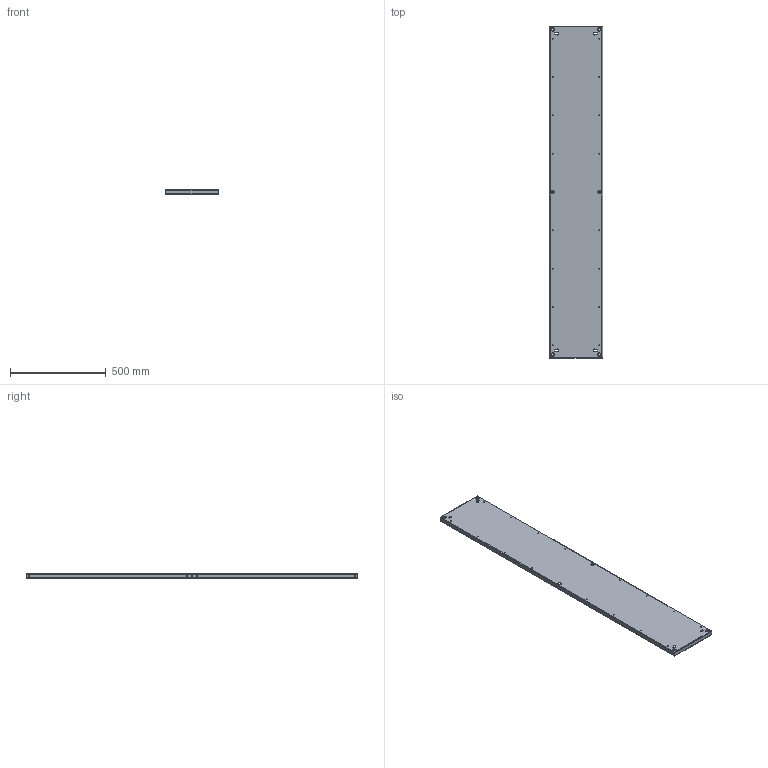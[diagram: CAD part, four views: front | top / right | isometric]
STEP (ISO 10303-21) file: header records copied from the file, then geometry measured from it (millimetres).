
FILE_DESCRIPTION(('STEP AP203'), '1');
FILE_NAME('Ïàíåëü ìîíòàæíàÿ Â1800õØ400 ìì OptiBox M 419705 ÊÝÀÇ', '', ('UNSPECIFIED'), ('UNSPECIFIED'), 'C3D Converter', 'C3D Toolkit', '');
FILE_SCHEMA(('CONFIG_CONTROL_DESIGN'));
Length unit declared in the file: millimetre
Bounding box: 278 x 1733 x 25 mm (x, y, z)
Volume: 1287737.6 mm3; surface area: 1298688.5 mm2
Topology: 1 solids, 1 shells, 132 faces, 326 edges, 196 vertices
Faces by surface type: cylinder 62, plane 54, bspline 16
Full cylindrical faces by diameter (mm): 4.6 x28, 7.3 x2, 9 x6, 18 x6
Entity records: 6168 total; most frequent: CARTESIAN_POINT 3057, DIRECTION 574, ORIENTED_EDGE 568, EDGE_CURVE 284, EDGE_LOOP 266, AXIS2_PLACEMENT_3D 209, VERTEX_POINT 196, FACE_BOUND 182
